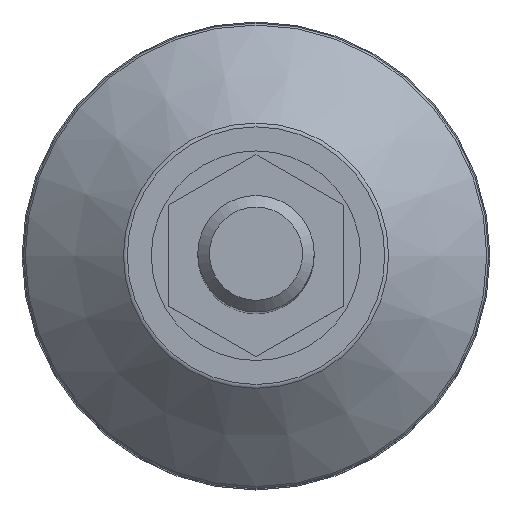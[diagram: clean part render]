
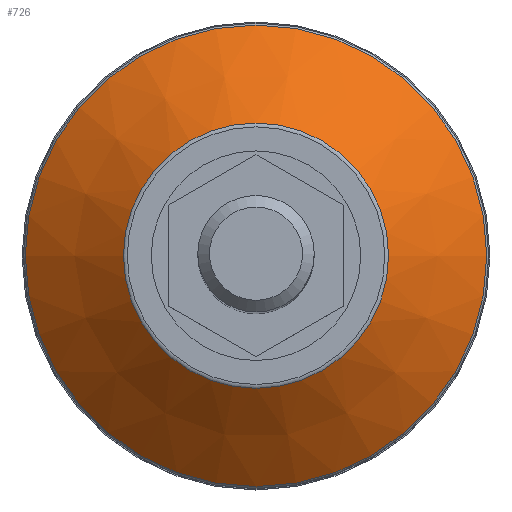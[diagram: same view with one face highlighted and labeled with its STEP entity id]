
A CAD part, top view. The second image highlights one B-rep face of the part: STEP entity #726.
In plain terms, the highlighted conical face has half-angle 49.399 degrees and reference radius 31.216 mm.
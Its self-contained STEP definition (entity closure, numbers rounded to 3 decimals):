
#96=CONICAL_SURFACE('',#802,31.216,49.399);
#107=FACE_BOUND('',#233,.T.);
#163=FACE_OUTER_BOUND('',#232,.T.);
#232=EDGE_LOOP('',(#560));
#233=EDGE_LOOP('',(#561));
#354=CIRCLE('',#800,22.781);
#356=CIRCLE('',#803,39.651);
#412=VERTEX_POINT('',#1193);
#414=VERTEX_POINT('',#1198);
#482=EDGE_CURVE('',#412,#412,#354,.T.);
#484=EDGE_CURVE('',#414,#414,#356,.T.);
#560=ORIENTED_EDGE('',*,*,#484,.T.);
#561=ORIENTED_EDGE('',*,*,#482,.F.);
#726=ADVANCED_FACE('',(#163,#107),#96,.T.);
#800=AXIS2_PLACEMENT_3D('',#1194,#929,#930);
#802=AXIS2_PLACEMENT_3D('',#1197,#933,#934);
#803=AXIS2_PLACEMENT_3D('',#1199,#935,#936);
#929=DIRECTION('center_axis',(0.,0.,1.));
#930=DIRECTION('ref_axis',(1.,0.,0.));
#933=DIRECTION('center_axis',(0.,0.,-1.));
#934=DIRECTION('ref_axis',(1.,0.,0.));
#935=DIRECTION('center_axis',(0.,0.,1.));
#936=DIRECTION('ref_axis',(1.,0.,0.));
#1193=CARTESIAN_POINT('',(-19.41,1.27,12.259));
#1194=CARTESIAN_POINT('Origin',(3.371,1.27,12.259));
#1197=CARTESIAN_POINT('Origin',(3.371,1.27,5.029));
#1198=CARTESIAN_POINT('',(-36.28,1.27,-2.201));
#1199=CARTESIAN_POINT('Origin',(3.371,1.27,-2.201));
